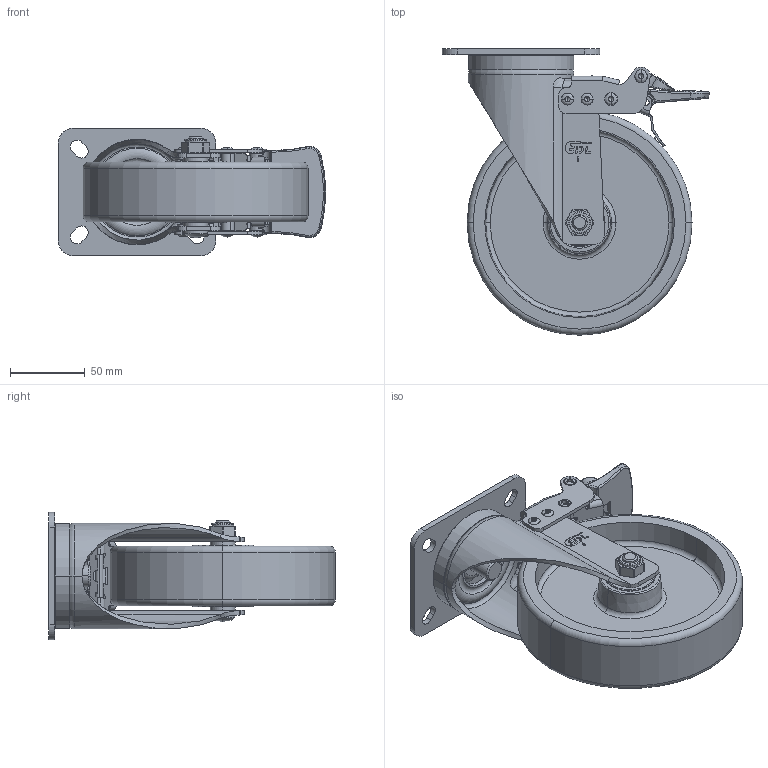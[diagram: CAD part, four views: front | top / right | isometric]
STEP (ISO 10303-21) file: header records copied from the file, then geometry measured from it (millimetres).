
FILE_DESCRIPTION((''),'2;1');
FILE_NAME('66126H_ASM_1_ASM','2024-04-27T',('Lenovo'),(''),'PRO/ENGINEER BY PARAMETRIC TECHNOLOGY CORPORATION, 2010280','PRO/ENGINEER BY PARAMETRIC TECHNOLOGY CORPORATION, 2010280','');
FILE_SCHEMA(('CONFIG_CONTROL_DESIGN'));
Length unit declared in the file: millimetre
Products named in the file (39): 6610-201_1; 6616-311_3; 6610-051_1; 6600-734_1; 676-986A_2; MANIFOLD_SOLID_BREP_15904; MANIFOLD_SOLID_BREP_16272; MANIFOLD_SOLID_BREP_16310; MANIFOLD_SOLID_BREP_16348; MANIFOLD_SOLID_BREP_16386; MANIFOLD_SOLID_BREP_16424; MANIFOLD_SOLID_BREP_16462; MANIFOLD_SOLID_BREP_16500; MANIFOLD_SOLID_BREP_16538; MANIFOLD_SOLID_BREP_16576; MANIFOLD_SOLID_BREP_16614; MANIFOLD_SOLID_BREP_16652; MANIFOLD_SOLID_BREP_16690; MANIFOLD_SOLID_BREP_16728; MANIFOLD_SOLID_BREP_16766; 6201_1_ASM; 500-66_3; 630-54A_1; 676-86A_ASM_1_ASM; 630-33A_3; 630-34_4; 670-17_3; MANIFOLD_SOLID_BREP_27677; MANIFOLD_SOLID_BREP_27775; MANIFOLD_SOLID_BREP_27873; 670-64_1_ASM; MANIFOLD_SOLID_BREP_35700; MANIFOLD_SOLID_BREP_36046; MANIFOLD_SOLID_BREP_36296; 670-13_7_ASM; 671-64_5; 671-32_4; 670-32_3; 66126H_ASM_1_ASM
Assembly tree (44 placements, depth 4):
  66126H_ASM_1_ASM
    6610-201_1
    6616-311_3
    6610-051_1
    6600-734_1
    676-86A_ASM_1_ASM
      676-986A_2
      6201_1_ASM  x2
        MANIFOLD_SOLID_BREP_15904
        MANIFOLD_SOLID_BREP_16272
        MANIFOLD_SOLID_BREP_16310
        MANIFOLD_SOLID_BREP_16348
        MANIFOLD_SOLID_BREP_16386
        MANIFOLD_SOLID_BREP_16424
        MANIFOLD_SOLID_BREP_16462
        MANIFOLD_SOLID_BREP_16500
        MANIFOLD_SOLID_BREP_16538
        MANIFOLD_SOLID_BREP_16576
        MANIFOLD_SOLID_BREP_16614
        MANIFOLD_SOLID_BREP_16652
        MANIFOLD_SOLID_BREP_16690
        MANIFOLD_SOLID_BREP_16728
        MANIFOLD_SOLID_BREP_16766
      500-66_3  x2
      630-54A_1
    630-33A_3
    630-34_4
    670-17_3
    670-64_1_ASM
      MANIFOLD_SOLID_BREP_27677
      MANIFOLD_SOLID_BREP_27775
      MANIFOLD_SOLID_BREP_27873
    670-13_7_ASM
      MANIFOLD_SOLID_BREP_35700
      MANIFOLD_SOLID_BREP_36046
      MANIFOLD_SOLID_BREP_36296
    671-64_5
    671-32_4  x4
    670-32_3  x2
Bounding box: 178.19 x 191 x 85 mm (x, y, z)
Volume: 462227.7 mm3; surface area: 190410.3 mm2
Topology: 54 solids, 54 shells, 1283 faces, 3363 edges, 2091 vertices
Faces by surface type: plane 573, cylinder 348, bspline 131, sphere 92, torus 85, cone 54
Entity records: 41627 total; most frequent: CARTESIAN_POINT 13028, ORIENTED_EDGE 5918, DIRECTION 5747, EDGE_CURVE 2959, AXIS2_PLACEMENT_3D 2118, VERTEX_POINT 1897, VECTOR 1511, LINE 1511
